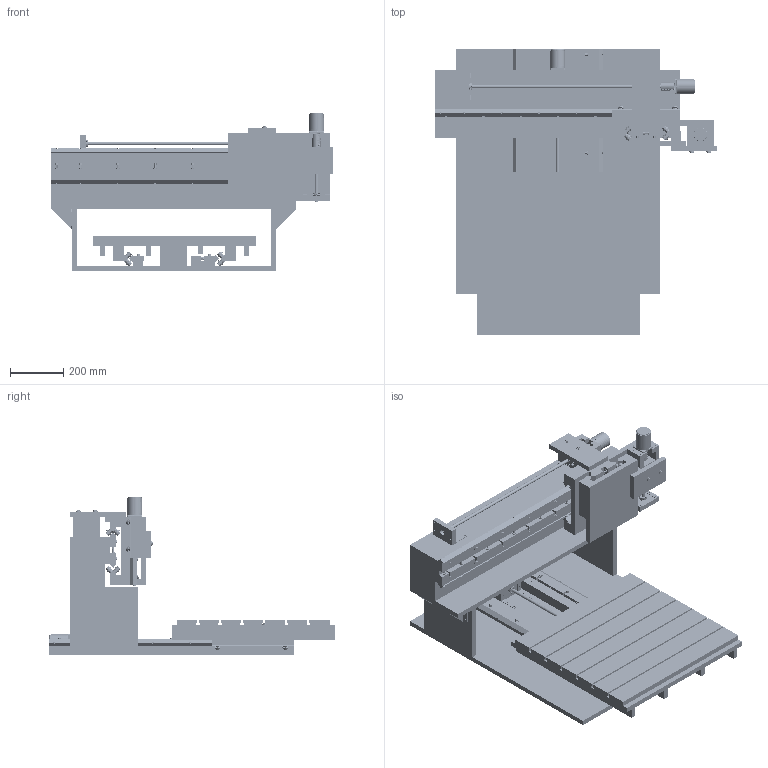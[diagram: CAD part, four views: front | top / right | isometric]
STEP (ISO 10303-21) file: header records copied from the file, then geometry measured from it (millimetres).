
FILE_DESCRIPTION(('STEP AP214'),'1');
FILE_NAME('C:/Users/dbailey/Documents/Punch!/ViaCAD Pro/MovingTableMachine.stp','2016-02-06T19:57:41',(''),(''),'Spatial InterOp 3D',' ',' ');
FILE_SCHEMA(('automotive_design'));
Length unit declared in the file: inch
Products named in the file (1116): 1; 2; 3; 4; 5; 6; 7; 8; 9; 10; 11; 12; 13; 14; 15; 16; 17; 18; 19; 20; 21; 22; 23; 24; RB36; 25; 26; 27; 28; 29; 30; 31; 32; 33; 34; 35; 36; 37; 38; 39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
Bounding box: 1050.82 x 1066.8 x 593.94 mm (x, y, z)
Volume: 60436306.2 mm3; surface area: 8836606.6 mm2
Topology: 690 solids, 690 shells, 9357 faces, 22729 edges, 15194 vertices
Faces by surface type: cylinder 4382, plane 3799, cone 762, bspline 412, extrusion 2
Entity records: 546758 total; most frequent: CARTESIAN_POINT 229281, DIRECTION 47428, ORIENTED_EDGE 44768, EDGE_CURVE 22384, AXIS2_PLACEMENT_3D 17950, VERTEX_POINT 14708, VECTOR 11528, LINE 11526
